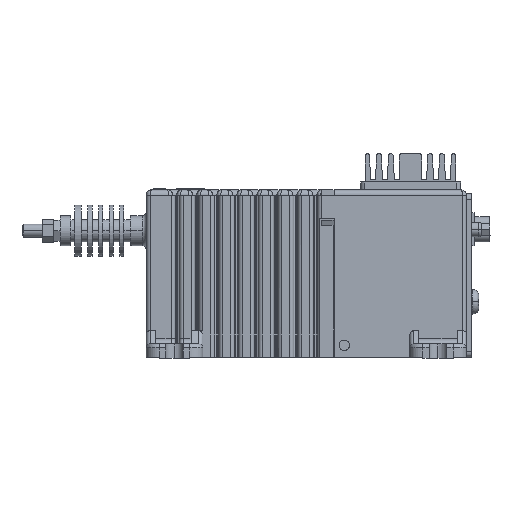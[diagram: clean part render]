
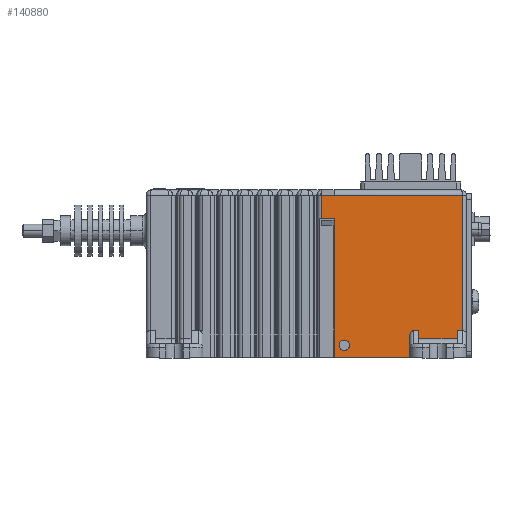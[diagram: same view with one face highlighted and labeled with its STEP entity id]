
A CAD part, left-side view. The second image highlights one B-rep face of the part: STEP entity #140880.
In plain terms, the highlighted planar face has unit normal (-1, 0, 0).
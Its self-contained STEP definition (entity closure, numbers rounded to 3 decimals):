
#139610=CARTESIAN_POINT('',(-46.35,50.,61.5));
#139620=DIRECTION('',(-1.,0.,-0.));
#139630=DIRECTION('',(0.,1.,0.));
#139640=AXIS2_PLACEMENT_3D('',#139610,#139620,#139630);
#139650=PLANE('',#139640);
#139660=CARTESIAN_POINT('',(-46.35,46.3,4.5));
#139670=DIRECTION('',(1.,0.,0.));
#139680=DIRECTION('',(0.,0.,-1.));
#139690=AXIS2_PLACEMENT_3D('',#139660,#139670,#139680);
#139700=CIRCLE('',#139690,2.);
#139710=CARTESIAN_POINT('',(-46.35,46.3,2.5));
#139720=VERTEX_POINT('',#139710);
#139730=CARTESIAN_POINT('',(-46.35,46.3,6.5));
#139740=VERTEX_POINT('',#139730);
#139750=EDGE_CURVE('',#139720,#139740,#139700,.T.);
#139760=ORIENTED_EDGE('',*,*,#139750,.T.);
#139770=EDGE_CURVE('',#139740,#139720,#139700,.T.);
#139780=ORIENTED_EDGE('',*,*,#139770,.T.);
#139790=EDGE_LOOP('',(#139780,#139760));
#139800=FACE_BOUND('',#139790,.T.);
#139810=CARTESIAN_POINT('',(-46.35,0.,10.));
#139820=DIRECTION('',(0.,-1.,0.));
#139830=VECTOR('',#139820,1.);
#139840=LINE('',#139810,#139830);
#139850=CARTESIAN_POINT('',(-46.35,3.5,10.));
#139860=VERTEX_POINT('',#139850);
#139870=CARTESIAN_POINT('',(-46.35,1.5,10.));
#139880=VERTEX_POINT('',#139870);
#139890=EDGE_CURVE('',#139860,#139880,#139840,.T.);
#139900=ORIENTED_EDGE('',*,*,#139890,.T.);
#139910=CARTESIAN_POINT('',(-46.35,3.5,0.));
#139920=DIRECTION('',(0.,0.,1.));
#139930=VECTOR('',#139920,1.);
#139940=LINE('',#139910,#139930);
#139950=CARTESIAN_POINT('',(-46.35,3.5,7.));
#139960=VERTEX_POINT('',#139950);
#139970=EDGE_CURVE('',#139960,#139860,#139940,.T.);
#139980=ORIENTED_EDGE('',*,*,#139970,.T.);
#139990=CARTESIAN_POINT('',(-46.35,0.,
7.));
#140000=DIRECTION('',(0.,-1.,0.));
#140010=VECTOR('',#140000,1.);
#140020=LINE('',#139990,#140010);
#140030=CARTESIAN_POINT('',(-46.35,18.,7.));
#140040=VERTEX_POINT('',#140030);
#140050=EDGE_CURVE('',#140040,#139960,#140020,.T.);
#140060=ORIENTED_EDGE('',*,*,#140050,.T.);
#140070=CARTESIAN_POINT('',(-46.35,18.,0.));
#140080=DIRECTION('',(0.,0.,1.));
#140090=VECTOR('',#140080,1.);
#140100=LINE('',#140070,#140090);
#140110=CARTESIAN_POINT('',(-46.35,18.,10.));
#140120=VERTEX_POINT('',#140110);
#140130=EDGE_CURVE('',#140040,#140120,#140100,.T.);
#140140=ORIENTED_EDGE('',*,*,#140130,.F.);
#140150=CARTESIAN_POINT('',(-46.35,0.,10.));
#140160=DIRECTION('',(0.,1.,0.));
#140170=VECTOR('',#140160,1.);
#140180=LINE('',#140150,#140170);
#140190=CARTESIAN_POINT('',(-46.35,20.,10.));
#140200=VERTEX_POINT('',#140190);
#140210=EDGE_CURVE('',#140120,#140200,#140180,.T.);
#140220=ORIENTED_EDGE('',*,*,#140210,.F.);
#140230=CARTESIAN_POINT('',(-46.35,20.,7.879));
#140240=DIRECTION('',(-1.,0.,0.));
#140250=DIRECTION('',(0.,0.,-1.));
#140260=AXIS2_PLACEMENT_3D('',#140230,#140240,#140250);
#140270=ELLIPSE('',#140260,2.121,1.5);
#140280=CARTESIAN_POINT('',(-46.35,21.5,7.879));
#140290=VERTEX_POINT('',#140280);
#140300=EDGE_CURVE('',#140200,#140290,#140270,.T.);
#140310=ORIENTED_EDGE('',*,*,#140300,.F.);
#140320=CARTESIAN_POINT('',(-46.35,21.5,0.));
#140330=DIRECTION('',(0.,0.,1.));
#140340=VECTOR('',#140330,1.);
#140350=LINE('',#140320,#140340);
#140360=CARTESIAN_POINT('',(-46.35,21.5,0.));
#140370=VERTEX_POINT('',#140360);
#140380=EDGE_CURVE('',#140370,#140290,#140350,.T.);
#140390=ORIENTED_EDGE('',*,*,#140380,.T.);
#140400=CARTESIAN_POINT('',(-46.35,0.,0.));
#140410=DIRECTION('',(0.,-1.,0.));
#140420=VECTOR('',#140410,1.);
#140430=LINE('',#140400,#140420);
#140440=CARTESIAN_POINT('',(-46.35,50.,0.));
#140450=VERTEX_POINT('',#140440);
#140460=EDGE_CURVE('',#140450,#140370,#140430,.T.);
#140470=ORIENTED_EDGE('',*,*,#140460,.T.);
#140480=CARTESIAN_POINT('',(-46.35,50.,61.5));
#140490=DIRECTION('',(0.,0.,-1.));
#140500=VECTOR('',#140490,1.);
#140510=LINE('',#140480,#140500);
#140520=CARTESIAN_POINT('',(-46.35,50.,52.6));
#140530=VERTEX_POINT('',#140520);
#140540=EDGE_CURVE('',#140530,#140450,#140510,.T.);
#140550=ORIENTED_EDGE('',*,*,#140540,.T.);
#140560=CARTESIAN_POINT('',(-46.35,48.,52.6));
#140570=DIRECTION('',(0.,1.,0.));
#140580=VECTOR('',#140570,1.);
#140590=LINE('',#140560,#140580);
#140600=CARTESIAN_POINT('',(-46.35,55.,52.6));
#140610=VERTEX_POINT('',#140600);
#140620=EDGE_CURVE('',#140530,#140610,#140590,.T.);
#140630=ORIENTED_EDGE('',*,*,#140620,.F.);
#140640=CARTESIAN_POINT('',(-46.35,55.,0.));
#140650=DIRECTION('',(0.,0.,1.));
#140660=VECTOR('',#140650,1.);
#140670=LINE('',#140640,#140660);
#140680=CARTESIAN_POINT('',(-46.35,55.,61.5));
#140690=VERTEX_POINT('',#140680);
#140700=EDGE_CURVE('',#140610,#140690,#140670,.T.);
#140710=ORIENTED_EDGE('',*,*,#140700,.F.);
#140720=CARTESIAN_POINT('',(-46.35,0.,61.5));
#140730=DIRECTION('',(0.,-1.,0.));
#140740=VECTOR('',#140730,1.);
#140750=LINE('',#140720,#140740);
#140760=CARTESIAN_POINT('',(-46.35,1.5,61.5));
#140770=VERTEX_POINT('',#140760);
#140780=EDGE_CURVE('',#140690,#140770,#140750,.T.);
#140790=ORIENTED_EDGE('',*,*,#140780,.F.);
#140800=CARTESIAN_POINT('',(-46.35,1.5,0.));
#140810=DIRECTION('',(0.,0.,1.));
#140820=VECTOR('',#140810,1.);
#140830=LINE('',#140800,#140820);
#140840=EDGE_CURVE('',#139880,#140770,#140830,.T.);
#140850=ORIENTED_EDGE('',*,*,#140840,.T.);
#140860=EDGE_LOOP('',(#140850,#140790,#140710,#140630,#140550,#140470,
#140390,#140310,#140220,#140140,#140060,#139980,#139900));
#140870=FACE_OUTER_BOUND('',#140860,.T.);
#140880=ADVANCED_FACE('',(#139800,#140870),#139650,.T.);
